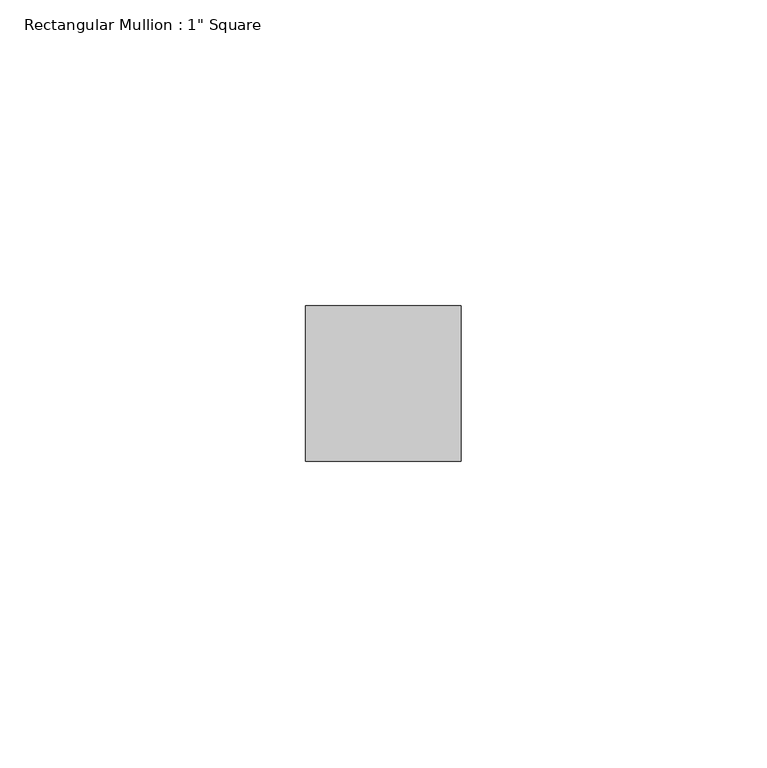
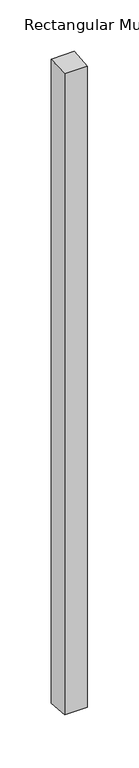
"""IFC4 building model written with IfcOpenShell, lengths in millimetres: member geometry."""

from ifc_helpers import new_model, si_unit, origin, place, context, project, spatial, faceted_brep, source, transform, mapped, element, save


def member_ac816b31(model_context):
    return source(origin(), model_context, "Body", "Brep", [
        faceted_brep([(-25.4, 12.7, 0.8160828), (0.0, 12.7, 1.0552721), (0.0, 12.7, -763.0552721), (-25.4, 12.7, -762.8160828), (-25.4, -12.7, -1.2944614), (-25.4, -12.7, -760.7055386), (0.0, -12.7, -1.0552721), (0.0, -12.7, -760.9447279)], [[[0, 1, 2, 3]], [[4, 0, 3, 5]], [[6, 4, 5, 7]], [[1, 6, 7, 2]], [[1, 0, 4, 6]], [[2, 7, 5, 3]]]),
    ])


if __name__ == "__main__":
    model = new_model("IFC4")
    model_context = context("Model", 3, world=origin())
    ifc_project = project(units=[si_unit("LENGTHUNIT", "METRE", prefix="MILLI")], contexts=[model_context])
    site = spatial("IfcSite", under=ifc_project)
    building = spatial("IfcBuilding", under=site)
    placement = place(None, origin())
    member_shape = member_ac816b31(model_context)
    element("IfcMember", 1, ObjectType="Rectangular Mullion : 1\" Square", at=placement, inside=building, context=model_context, shape_type="MappedRepresentation", body=[
        mapped(member_shape, transform((0.0, 0.0, 0.0), x_axis=(1.0, 0.0, 0.0), y_axis=(0.0, 1.0, 0.0), z_axis=(0.0, 0.0, 1.0))),
    ])
    save(model, "model.ifc")
